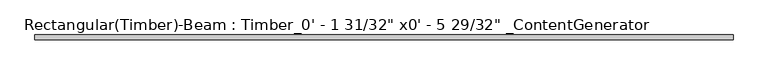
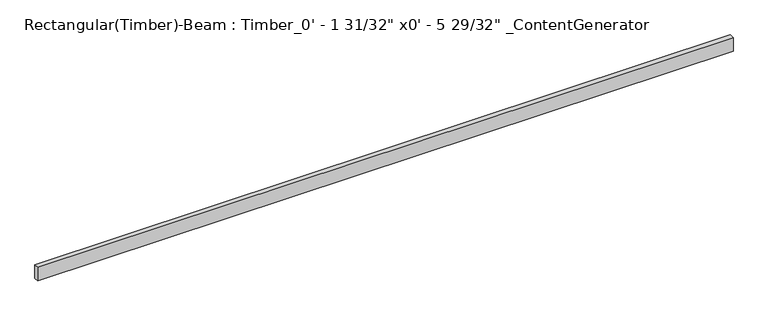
"""IFC4 building model written with IfcOpenShell, lengths in millimetres: beam geometry."""

from ifc_helpers import new_model, si_unit, frame, origin, place, context, project, spatial, polyline, outline, extrude, source, transform, mapped, element, save


def beam_69bc704e(model_context):
    return source(origin(), model_context, "Body", "SweptSolid", [
        extrude(outline(polyline([(3733.8, 25.4), (3733.8, -25.4), (-3733.8, -25.4), (-3733.8, 25.4), (3733.8, 25.4)])), frame((0.0, 0.0, -76.2), z_axis=(0.0, 0.0, 1.0), x_axis=(1.0, 0.0, 0.0)), (0.0, 0.0, 1.0), 152.4),
    ])


if __name__ == "__main__":
    model = new_model("IFC4")
    model_context = context("Model", 3, world=origin())
    ifc_project = project(units=[si_unit("LENGTHUNIT", "METRE", prefix="MILLI")], contexts=[model_context])
    site = spatial("IfcSite", under=ifc_project)
    building = spatial("IfcBuilding", under=site)
    placement = place(None, origin())
    beam_shape = beam_69bc704e(model_context)
    element("IfcBeam", 1, ObjectType="Rectangular(Timber)-Beam : Timber_0' - 1 31/32\" x0' - 5 29/32\" _ContentGenerator", at=placement, inside=building, context=model_context, shape_type="MappedRepresentation", body=[
        mapped(beam_shape, transform((0.0, 0.0, 0.0), x_axis=(1.0, 0.0, 0.0), y_axis=(0.0, 1.0, 0.0), z_axis=(0.0, 0.0, 1.0))),
    ])
    save(model, "model.ifc")
